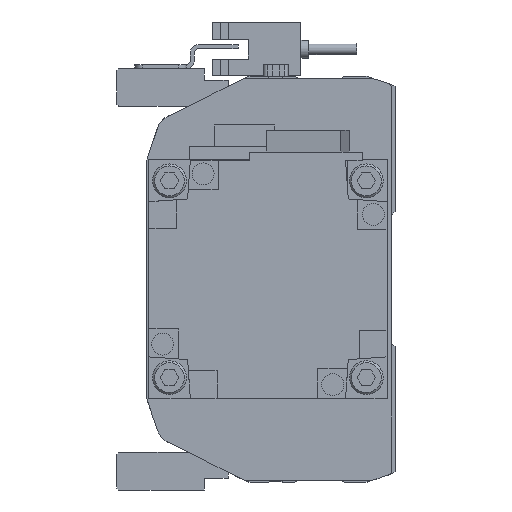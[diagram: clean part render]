
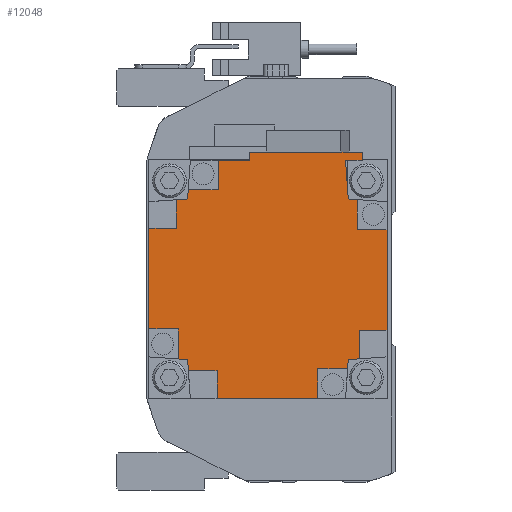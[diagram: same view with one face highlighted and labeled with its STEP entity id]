
A CAD part, left-side view. The second image highlights one B-rep face of the part: STEP entity #12048.
In plain terms, the highlighted planar face has unit normal (-1, 0, 0) as drawn and (0, 1, 0) by its records, which use the part's own axes.
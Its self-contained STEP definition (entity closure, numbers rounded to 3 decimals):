
#211=PLANE('',#12881);
#744=LINE('',#17872,#1977);
#761=LINE('',#17908,#1994);
#763=LINE('',#17912,#1996);
#764=LINE('',#17915,#1997);
#765=LINE('',#17917,#1998);
#766=LINE('',#17919,#1999);
#767=LINE('',#17921,#2000);
#768=LINE('',#17923,#2001);
#769=LINE('',#17925,#2002);
#770=LINE('',#17927,#2003);
#771=LINE('',#17929,#2004);
#772=LINE('',#17931,#2005);
#773=LINE('',#17933,#2006);
#774=LINE('',#17935,#2007);
#775=LINE('',#17937,#2008);
#776=LINE('',#17939,#2009);
#777=LINE('',#17941,#2010);
#778=LINE('',#17943,#2011);
#779=LINE('',#17945,#2012);
#780=LINE('',#17947,#2013);
#781=LINE('',#17949,#2014);
#782=LINE('',#17951,#2015);
#783=LINE('',#17953,#2016);
#784=LINE('',#17955,#2017);
#785=LINE('',#17957,#2018);
#786=LINE('',#17958,#2019);
#787=LINE('',#17959,#2020);
#788=LINE('',#17961,#2021);
#789=LINE('',#17963,#2022);
#790=LINE('',#17965,#2023);
#1977=VECTOR('',#14270,1000.);
#1994=VECTOR('',#14289,1000.);
#1996=VECTOR('',#14293,1000.);
#1997=VECTOR('',#14294,1000.);
#1998=VECTOR('',#14295,1000.);
#1999=VECTOR('',#14296,1000.);
#2000=VECTOR('',#14297,1000.);
#2001=VECTOR('',#14298,1000.);
#2002=VECTOR('',#14299,1000.);
#2003=VECTOR('',#14300,1000.);
#2004=VECTOR('',#14301,1000.);
#2005=VECTOR('',#14302,1000.);
#2006=VECTOR('',#14303,1000.);
#2007=VECTOR('',#14304,1000.);
#2008=VECTOR('',#14305,1000.);
#2009=VECTOR('',#14306,1000.);
#2010=VECTOR('',#14307,1000.);
#2011=VECTOR('',#14308,1000.);
#2012=VECTOR('',#14309,1000.);
#2013=VECTOR('',#14310,1000.);
#2014=VECTOR('',#14311,1000.);
#2015=VECTOR('',#14312,1000.);
#2016=VECTOR('',#14313,1000.);
#2017=VECTOR('',#14314,1000.);
#2018=VECTOR('',#14315,1000.);
#2019=VECTOR('',#14316,1000.);
#2020=VECTOR('',#14317,1000.);
#2021=VECTOR('',#14318,1000.);
#2022=VECTOR('',#14319,1000.);
#2023=VECTOR('',#14320,1000.);
#3411=ORIENTED_EDGE('',*,*,#6771,.T.);
#3412=ORIENTED_EDGE('',*,*,#6772,.T.);
#3413=ORIENTED_EDGE('',*,*,#6773,.T.);
#3414=ORIENTED_EDGE('',*,*,#6774,.T.);
#3415=ORIENTED_EDGE('',*,*,#6775,.T.);
#3416=ORIENTED_EDGE('',*,*,#6776,.F.);
#3417=ORIENTED_EDGE('',*,*,#6777,.F.);
#3418=ORIENTED_EDGE('',*,*,#6778,.T.);
#3419=ORIENTED_EDGE('',*,*,#6779,.T.);
#3420=ORIENTED_EDGE('',*,*,#6780,.T.);
#3421=ORIENTED_EDGE('',*,*,#6781,.T.);
#3422=ORIENTED_EDGE('',*,*,#6782,.T.);
#3423=ORIENTED_EDGE('',*,*,#6783,.F.);
#3424=ORIENTED_EDGE('',*,*,#6784,.F.);
#3425=ORIENTED_EDGE('',*,*,#6785,.T.);
#3426=ORIENTED_EDGE('',*,*,#6786,.T.);
#3427=ORIENTED_EDGE('',*,*,#6787,.T.);
#3428=ORIENTED_EDGE('',*,*,#6788,.T.);
#3429=ORIENTED_EDGE('',*,*,#6789,.T.);
#3430=ORIENTED_EDGE('',*,*,#6790,.F.);
#3431=ORIENTED_EDGE('',*,*,#6791,.F.);
#3432=ORIENTED_EDGE('',*,*,#6792,.T.);
#3433=ORIENTED_EDGE('',*,*,#6793,.F.);
#3434=ORIENTED_EDGE('',*,*,#6752,.F.);
#3435=ORIENTED_EDGE('',*,*,#6794,.T.);
#3436=ORIENTED_EDGE('',*,*,#6769,.T.);
#3437=ORIENTED_EDGE('',*,*,#6795,.T.);
#3438=ORIENTED_EDGE('',*,*,#6796,.T.);
#3439=ORIENTED_EDGE('',*,*,#6797,.F.);
#3440=ORIENTED_EDGE('',*,*,#6798,.F.);
#6752=EDGE_CURVE('',#8459,#8460,#744,.T.);
#6769=EDGE_CURVE('',#8477,#8476,#761,.T.);
#6771=EDGE_CURVE('',#8478,#8479,#763,.T.);
#6772=EDGE_CURVE('',#8479,#8480,#764,.T.);
#6773=EDGE_CURVE('',#8480,#8481,#765,.T.);
#6774=EDGE_CURVE('',#8481,#8482,#766,.T.);
#6775=EDGE_CURVE('',#8482,#8483,#767,.T.);
#6776=EDGE_CURVE('',#8484,#8483,#768,.T.);
#6777=EDGE_CURVE('',#8485,#8484,#769,.T.);
#6778=EDGE_CURVE('',#8485,#8486,#770,.T.);
#6779=EDGE_CURVE('',#8486,#8487,#771,.T.);
#6780=EDGE_CURVE('',#8487,#8488,#772,.T.);
#6781=EDGE_CURVE('',#8488,#8489,#773,.T.);
#6782=EDGE_CURVE('',#8489,#8490,#774,.T.);
#6783=EDGE_CURVE('',#8491,#8490,#775,.T.);
#6784=EDGE_CURVE('',#8492,#8491,#776,.T.);
#6785=EDGE_CURVE('',#8492,#8493,#777,.T.);
#6786=EDGE_CURVE('',#8493,#8494,#778,.T.);
#6787=EDGE_CURVE('',#8494,#8495,#779,.T.);
#6788=EDGE_CURVE('',#8495,#8496,#780,.T.);
#6789=EDGE_CURVE('',#8496,#8497,#781,.T.);
#6790=EDGE_CURVE('',#8498,#8497,#782,.T.);
#6791=EDGE_CURVE('',#8499,#8498,#783,.T.);
#6792=EDGE_CURVE('',#8499,#8500,#784,.T.);
#6793=EDGE_CURVE('',#8460,#8500,#785,.T.);
#6794=EDGE_CURVE('',#8459,#8477,#786,.T.);
#6795=EDGE_CURVE('',#8476,#8501,#787,.T.);
#6796=EDGE_CURVE('',#8501,#8502,#788,.T.);
#6797=EDGE_CURVE('',#8503,#8502,#789,.T.);
#6798=EDGE_CURVE('',#8478,#8503,#790,.T.);
#8459=VERTEX_POINT('',#17873);
#8460=VERTEX_POINT('',#17874);
#8476=VERTEX_POINT('',#17907);
#8477=VERTEX_POINT('',#17909);
#8478=VERTEX_POINT('',#17913);
#8479=VERTEX_POINT('',#17914);
#8480=VERTEX_POINT('',#17916);
#8481=VERTEX_POINT('',#17918);
#8482=VERTEX_POINT('',#17920);
#8483=VERTEX_POINT('',#17922);
#8484=VERTEX_POINT('',#17924);
#8485=VERTEX_POINT('',#17926);
#8486=VERTEX_POINT('',#17928);
#8487=VERTEX_POINT('',#17930);
#8488=VERTEX_POINT('',#17932);
#8489=VERTEX_POINT('',#17934);
#8490=VERTEX_POINT('',#17936);
#8491=VERTEX_POINT('',#17938);
#8492=VERTEX_POINT('',#17940);
#8493=VERTEX_POINT('',#17942);
#8494=VERTEX_POINT('',#17944);
#8495=VERTEX_POINT('',#17946);
#8496=VERTEX_POINT('',#17948);
#8497=VERTEX_POINT('',#17950);
#8498=VERTEX_POINT('',#17952);
#8499=VERTEX_POINT('',#17954);
#8500=VERTEX_POINT('',#17956);
#8501=VERTEX_POINT('',#17960);
#8502=VERTEX_POINT('',#17962);
#8503=VERTEX_POINT('',#17964);
#10058=EDGE_LOOP('',(#3411,#3412,#3413,#3414,#3415,#3416,#3417,#3418,#3419,
#3420,#3421,#3422,#3423,#3424,#3425,#3426,#3427,#3428,#3429,#3430,#3431,
#3432,#3433,#3434,#3435,#3436,#3437,#3438,#3439,#3440));
#10957=FACE_BOUND('',#10058,.T.);
#12048=ADVANCED_FACE('',(#10957),#211,.T.);
#12881=AXIS2_PLACEMENT_3D('',#17911,#14291,#14292);
#14270=DIRECTION('',(0.,0.,1.));
#14289=DIRECTION('',(0.,0.,-1.));
#14291=DIRECTION('',(0.,1.,0.));
#14292=DIRECTION('',(0.,0.,1.));
#14293=DIRECTION('',(-1.,0.,0.));
#14294=DIRECTION('',(0.,0.,-1.));
#14295=DIRECTION('',(-1.,0.,0.));
#14296=DIRECTION('',(0.,0.,1.));
#14297=DIRECTION('',(-1.,0.,0.));
#14298=DIRECTION('',(0.07,0.,-0.998));
#14299=DIRECTION('',(0.998,0.,-0.07));
#14300=DIRECTION('',(0.,0.,1.));
#14301=DIRECTION('',(-1.,0.,0.));
#14302=DIRECTION('',(0.,0.,1.));
#14303=DIRECTION('',(1.,0.,0.));
#14304=DIRECTION('',(0.,0.,1.));
#14305=DIRECTION('',(-0.998,0.,-0.07));
#14306=DIRECTION('',(-0.07,0.,-0.998));
#14307=DIRECTION('',(1.,0.,0.));
#14308=DIRECTION('',(0.,0.,1.));
#14309=DIRECTION('',(1.,0.,0.));
#14310=DIRECTION('',(0.,0.,-1.));
#14311=DIRECTION('',(1.,0.,0.));
#14312=DIRECTION('',(-0.07,0.,0.998));
#14313=DIRECTION('',(-0.998,0.,0.07));
#14314=DIRECTION('',(0.,0.,1.));
#14315=DIRECTION('',(-1.,0.,0.));
#14316=DIRECTION('',(-1.,0.,0.));
#14317=DIRECTION('',(-1.,0.,0.));
#14318=DIRECTION('',(0.,0.,-1.));
#14319=DIRECTION('',(0.998,0.,0.07));
#14320=DIRECTION('',(0.07,0.,0.998));
#17872=CARTESIAN_POINT('',(32.,130.7,-4.7));
#17873=CARTESIAN_POINT('',(32.,130.7,-4.7));
#17874=CARTESIAN_POINT('',(32.,130.7,23.7));
#17907=CARTESIAN_POINT('',(29.95,130.7,-12.5));
#17908=CARTESIAN_POINT('',(29.95,130.7,29.95));
#17909=CARTESIAN_POINT('',(29.95,130.7,-4.7));
#17911=CARTESIAN_POINT('',(0.,130.7,0.));
#17912=CARTESIAN_POINT('',(0.,130.7,-23.));
#17913=CARTESIAN_POINT('',(20.004,130.7,-23.));
#17914=CARTESIAN_POINT('',(12.8,130.7,-23.));
#17915=CARTESIAN_POINT('',(12.8,130.7,0.));
#17916=CARTESIAN_POINT('',(12.8,130.7,-29.95));
#17917=CARTESIAN_POINT('',(29.95,130.7,-29.95));
#17918=CARTESIAN_POINT('',(-12.5,130.7,-29.95));
#17919=CARTESIAN_POINT('',(-12.5,130.7,0.));
#17920=CARTESIAN_POINT('',(-12.5,130.7,-22.5));
#17921=CARTESIAN_POINT('',(0.,130.7,-22.5));
#17922=CARTESIAN_POINT('',(-20.039,130.7,-22.5));
#17923=CARTESIAN_POINT('',(-21.507,130.7,-1.504));
#17924=CARTESIAN_POINT('',(-20.2,130.7,-20.2));
#17925=CARTESIAN_POINT('',(-1.504,130.7,-21.507));
#17926=CARTESIAN_POINT('',(-23.,130.7,-20.004));
#17927=CARTESIAN_POINT('',(-23.,130.7,0.));
#17928=CARTESIAN_POINT('',(-23.,130.7,-12.8));
#17929=CARTESIAN_POINT('',(0.,130.7,-12.8));
#17930=CARTESIAN_POINT('',(-29.95,130.7,-12.8));
#17931=CARTESIAN_POINT('',(-29.95,130.7,-29.95));
#17932=CARTESIAN_POINT('',(-29.95,130.7,12.5));
#17933=CARTESIAN_POINT('',(0.,130.7,12.5));
#17934=CARTESIAN_POINT('',(-22.5,130.7,12.5));
#17935=CARTESIAN_POINT('',(-22.5,130.7,0.));
#17936=CARTESIAN_POINT('',(-22.5,130.7,20.039));
#17937=CARTESIAN_POINT('',(-1.504,130.7,21.507));
#17938=CARTESIAN_POINT('',(-20.2,130.7,20.2));
#17939=CARTESIAN_POINT('',(-21.507,130.7,1.504));
#17940=CARTESIAN_POINT('',(-20.004,130.7,23.));
#17941=CARTESIAN_POINT('',(0.,130.7,23.));
#17942=CARTESIAN_POINT('',(-12.8,130.7,23.));
#17943=CARTESIAN_POINT('',(-12.8,130.7,0.));
#17944=CARTESIAN_POINT('',(-12.8,130.7,29.95));
#17945=CARTESIAN_POINT('',(-29.95,130.7,29.95));
#17946=CARTESIAN_POINT('',(12.5,130.7,29.95));
#17947=CARTESIAN_POINT('',(12.5,130.7,0.));
#17948=CARTESIAN_POINT('',(12.5,130.7,22.5));
#17949=CARTESIAN_POINT('',(0.,130.7,22.5));
#17950=CARTESIAN_POINT('',(20.039,130.7,22.5));
#17951=CARTESIAN_POINT('',(21.507,130.7,1.504));
#17952=CARTESIAN_POINT('',(20.2,130.7,20.2));
#17953=CARTESIAN_POINT('',(1.504,130.7,21.507));
#17954=CARTESIAN_POINT('',(29.95,130.7,19.518));
#17955=CARTESIAN_POINT('',(29.95,130.7,-4.7));
#17956=CARTESIAN_POINT('',(29.95,130.7,23.7));
#17957=CARTESIAN_POINT('',(32.,130.7,23.7));
#17958=CARTESIAN_POINT('',(32.,130.7,-4.7));
#17959=CARTESIAN_POINT('',(0.,130.7,-12.5));
#17960=CARTESIAN_POINT('',(22.5,130.7,-12.5));
#17961=CARTESIAN_POINT('',(22.5,130.7,0.));
#17962=CARTESIAN_POINT('',(22.5,130.7,-20.039));
#17963=CARTESIAN_POINT('',(1.504,130.7,-21.507));
#17964=CARTESIAN_POINT('',(20.2,130.7,-20.2));
#17965=CARTESIAN_POINT('',(21.507,130.7,-1.504));
